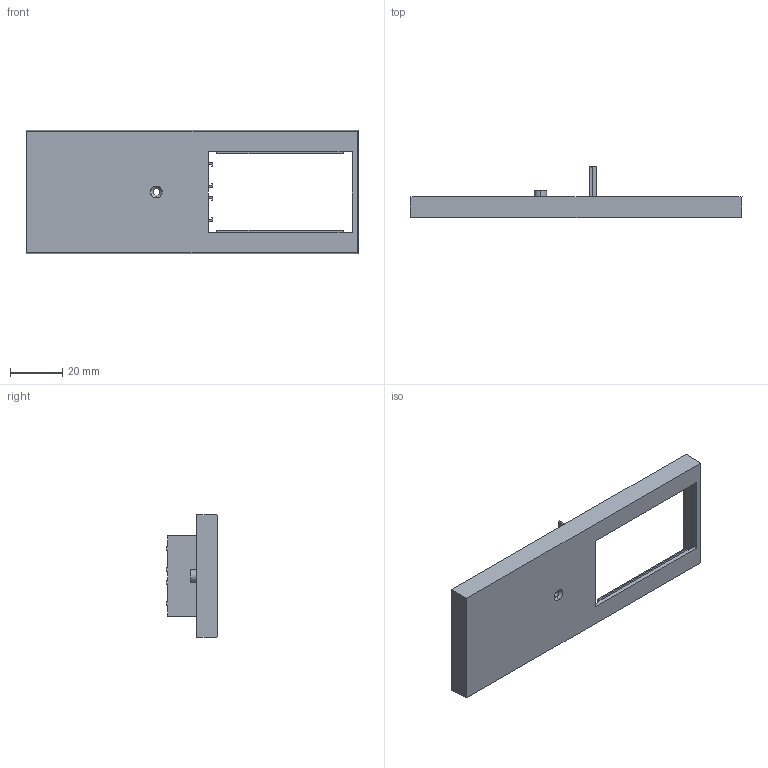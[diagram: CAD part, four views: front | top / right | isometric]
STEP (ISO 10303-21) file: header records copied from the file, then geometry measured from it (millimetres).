
FILE_DESCRIPTION (( 'STEP AP214' ), '1' );
FILE_NAME ('Cos PP7A.STEP', '2019-11-04T09:00:56', ( 'aaa' ), ( '' ), 'SwSTEP 2.0', 'SolidWorks 2014', '' );
FILE_SCHEMA (( 'AUTOMOTIVE_DESIGN' ));
Length unit declared in the file: millimetre
Products named in the file (1): Cos PP7A
Bounding box: 127.02 x 19.6 x 47.08 mm (x, y, z)
Volume: 13525.5 mm3; surface area: 15435.1 mm2
Topology: 1 solids, 1 shells, 110 faces, 303 edges, 201 vertices
Faces by surface type: plane 94, cylinder 14, cone 2
Entity records: 3495 total; most frequent: CARTESIAN_POINT 615, ORIENTED_EDGE 606, DIRECTION 555, EDGE_CURVE 303, LINE 273, VECTOR 273, VERTEX_POINT 201, AXIS2_PLACEMENT_3D 141
